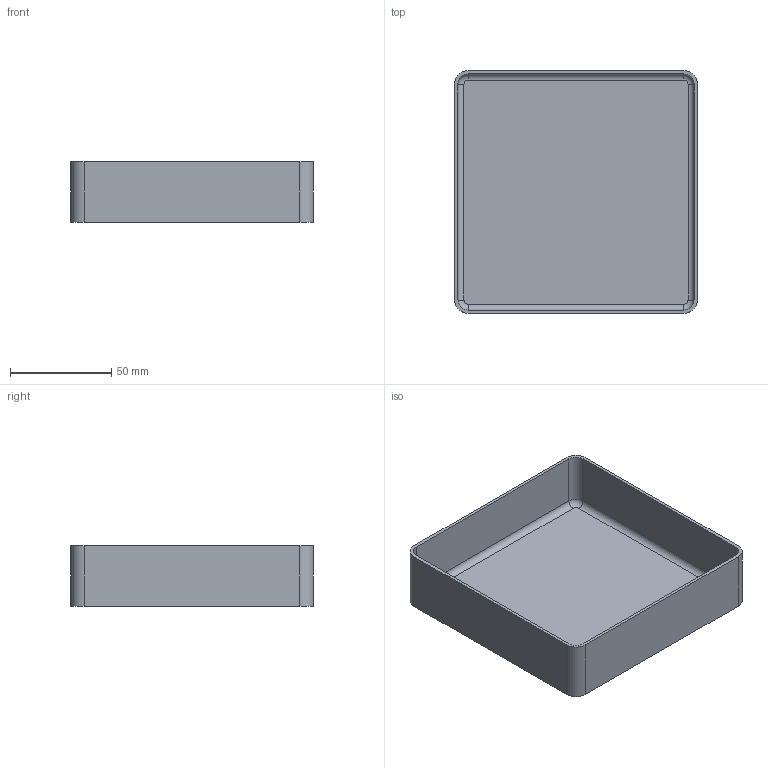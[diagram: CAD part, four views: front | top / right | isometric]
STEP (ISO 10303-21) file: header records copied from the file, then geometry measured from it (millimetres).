
FILE_DESCRIPTION(/* description */ ('STEP AP214'),/* implementation_level */ '2;1');
FILE_NAME(/* name */ '603e3ce2bd695514d3bd5151',/* time_stamp */ '2021-03-02T13:25:55+00:00',/* author */ (''),/* organization */ (''),/* preprocessor_version */ 'ST-DEVELOPER v18.1',/* originating_system */ ' ',/* authorisation */ ' ');
FILE_SCHEMA (('AUTOMOTIVE_DESIGN {1 0 10303 214 3 1 1}'));
Length unit declared in the file: metre
Products named in the file (1): Part 1
Bounding box: 120 x 120 x 30 mm (x, y, z)
Volume: 44925.7 mm3; surface area: 55215.5 mm2
Topology: 1 solids, 1 shells, 27 faces, 64 edges, 40 vertices
Faces by surface type: cylinder 12, plane 11, torus 4
Entity records: 812 total; most frequent: DIRECTION 148, CARTESIAN_POINT 132, ORIENTED_EDGE 128, EDGE_CURVE 64, AXIS2_PLACEMENT_3D 56, VERTEX_POINT 40, LINE 36, VECTOR 36
